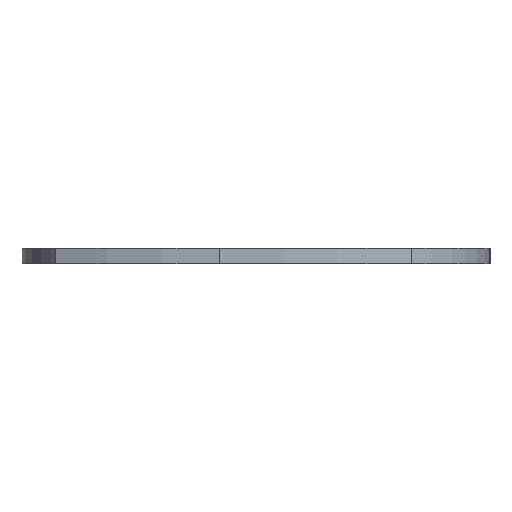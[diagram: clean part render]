
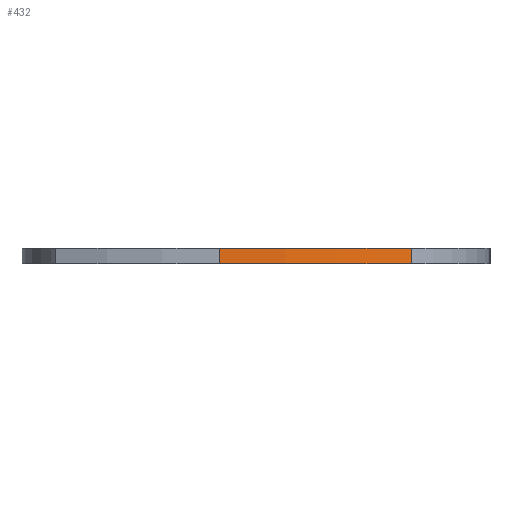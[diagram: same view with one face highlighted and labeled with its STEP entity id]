
A CAD part, left-side view. The second image highlights one B-rep face of the part: STEP entity #432.
In plain terms, the highlighted free-form (B-spline) face has degree [3, 1] with [4, 2] control points.
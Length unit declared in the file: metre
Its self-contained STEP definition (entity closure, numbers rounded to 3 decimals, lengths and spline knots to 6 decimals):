
#18=B_SPLINE_SURFACE_WITH_KNOTS('',3,1,((#893,#894),(#895,#896),(#897,#898),
(#899,#900)),.SURF_OF_LINEAR_EXTRUSION.,.F.,.F.,.F.,(4,4),(2,2),(7.,8.),
(0.,1.),.UNSPECIFIED.);
#41=LINE('',#892,#66);
#42=LINE('',#901,#67);
#66=VECTOR('',#624,1.);
#67=VECTOR('',#625,1.);
#149=ORIENTED_EDGE('',*,*,#216,.T.);
#150=ORIENTED_EDGE('',*,*,#257,.F.);
#151=ORIENTED_EDGE('',*,*,#244,.F.);
#152=ORIENTED_EDGE('',*,*,#258,.T.);
#216=EDGE_CURVE('',#280,#279,#320,.T.);
#244=EDGE_CURVE('',#307,#308,#344,.T.);
#257=EDGE_CURVE('',#308,#279,#41,.T.);
#258=EDGE_CURVE('',#307,#280,#42,.T.);
#279=VERTEX_POINT('',#677);
#280=VERTEX_POINT('',#682);
#307=VERTEX_POINT('',#806);
#308=VERTEX_POINT('',#811);
#320=B_SPLINE_CURVE_WITH_KNOTS('',3,(#678,#679,#680,#681),.UNSPECIFIED.,
 .F.,.F.,(4,4),(7.,8.),.UNSPECIFIED.);
#344=B_SPLINE_CURVE_WITH_KNOTS('',3,(#807,#808,#809,#810),.UNSPECIFIED.,
 .F.,.F.,(4,4),(7.,8.),.UNSPECIFIED.);
#358=EDGE_LOOP('',(#149,#150,#151,#152));
#381=FACE_BOUND('',#358,.T.);
#432=ADVANCED_FACE('',(#381),#18,.F.);
#624=DIRECTION('',(0.,0.,-1.));
#625=DIRECTION('',(0.,0.,-1.));
#677=CARTESIAN_POINT('',(-0.070719,-0.023048,0.010547));
#678=CARTESIAN_POINT('',(-0.070722,-0.023035,0.010547));
#679=CARTESIAN_POINT('',(-0.070722,-0.02304,0.010547));
#680=CARTESIAN_POINT('',(-0.070721,-0.023044,0.010547));
#681=CARTESIAN_POINT('',(-0.070719,-0.023048,0.010547));
#682=CARTESIAN_POINT('',(-0.070722,-0.023035,0.010547));
#806=CARTESIAN_POINT('',(-0.070722,-0.023035,0.010548));
#807=CARTESIAN_POINT('',(-0.070722,-0.023035,0.010548));
#808=CARTESIAN_POINT('',(-0.070722,-0.02304,0.010548));
#809=CARTESIAN_POINT('',(-0.070721,-0.023044,0.010548));
#810=CARTESIAN_POINT('',(-0.070719,-0.023048,0.010548));
#811=CARTESIAN_POINT('',(-0.070719,-0.023048,0.010548));
#892=CARTESIAN_POINT('',(-0.070719,-0.023048,0.010548));
#893=CARTESIAN_POINT('',(-0.070722,-0.023035,0.010548));
#894=CARTESIAN_POINT('',(-0.070722,-0.023035,0.010547));
#895=CARTESIAN_POINT('',(-0.070722,-0.02304,0.010548));
#896=CARTESIAN_POINT('',(-0.070722,-0.02304,0.010547));
#897=CARTESIAN_POINT('',(-0.070721,-0.023044,0.010548));
#898=CARTESIAN_POINT('',(-0.070721,-0.023044,0.010547));
#899=CARTESIAN_POINT('',(-0.070719,-0.023048,0.010548));
#900=CARTESIAN_POINT('',(-0.070719,-0.023048,0.010547));
#901=CARTESIAN_POINT('',(-0.070722,-0.023035,0.010548));
